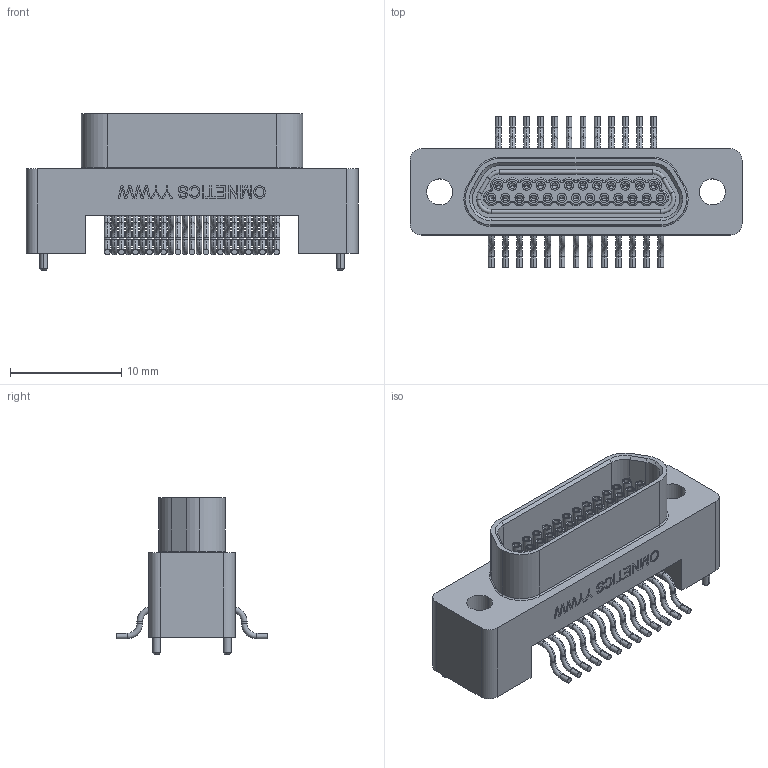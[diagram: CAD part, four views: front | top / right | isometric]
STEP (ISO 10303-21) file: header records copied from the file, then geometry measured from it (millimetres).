
FILE_DESCRIPTION (( 'STEP AP214' ), '1' );
FILE_NAME ('A99002-025 REV B.STEP', '2019-07-30T16:38:15', ( '' ), ( '' ), 'SwSTEP 2.0', 'SolidWorks 2019', '' );
FILE_SCHEMA (( 'AUTOMOTIVE_DESIGN' ));
Length unit declared in the file: inch
Products named in the file (1): A99002-025 REV B
Bounding box: 29.84 x 13.51 x 14.1 mm (x, y, z)
Volume: 1277.2 mm3; surface area: 2859.6 mm2
Topology: 1 solids, 56 shells, 1289 faces, 2882 edges, 1744 vertices
Faces by surface type: cylinder 572, plane 337, torus 263, cone 63, bspline 54
Entity records: 55589 total; most frequent: CARTESIAN_POINT 9516, DIRECTION 6660, ORIENTED_EDGE 5652, EDGE_CURVE 2826, AXIS2_PLACEMENT_3D 2764, VERTEX_POINT 1744, CIRCLE 1528, EDGE_LOOP 1490
